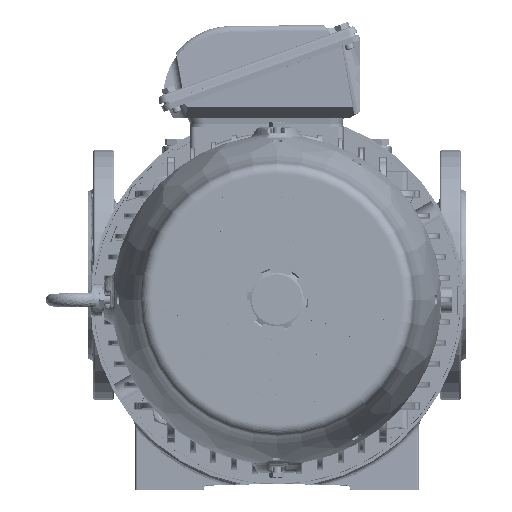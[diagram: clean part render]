
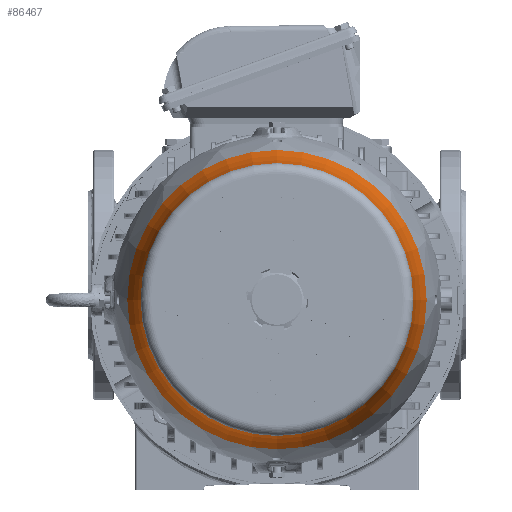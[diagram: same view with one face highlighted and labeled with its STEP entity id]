
A CAD part, top view. The second image highlights one B-rep face of the part: STEP entity #86467.
In plain terms, the highlighted toroidal (fillet/blend) face has major radius 308.616 mm and minor radius 180 mm.
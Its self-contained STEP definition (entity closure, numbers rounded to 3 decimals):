
#112=TOROIDAL_SURFACE('',#93584,308.617,180.);
#17658=FACE_OUTER_BOUND('',#22759,.T.);
#22759=EDGE_LOOP('',(#66572,#66573,#66574,#66575,#66576,#66577));
#27933=CIRCLE('',#93565,142.487);
#27934=CIRCLE('',#93566,142.487);
#27952=CIRCLE('',#93585,180.);
#27953=CIRCLE('',#93586,129.927);
#27954=CIRCLE('',#93587,129.927);
#37347=VERTEX_POINT('',#174566);
#37348=VERTEX_POINT('',#174570);
#37382=VERTEX_POINT('',#174860);
#37383=VERTEX_POINT('',#174862);
#47897=EDGE_CURVE('',#37347,#37348,#27933,.T.);
#47898=EDGE_CURVE('',#37348,#37347,#27934,.T.);
#47933=EDGE_CURVE('',#37347,#37382,#27952,.T.);
#47934=EDGE_CURVE('',#37382,#37383,#27953,.T.);
#47935=EDGE_CURVE('',#37383,#37382,#27954,.T.);
#66572=ORIENTED_EDGE('',*,*,#47898,.F.);
#66573=ORIENTED_EDGE('',*,*,#47897,.F.);
#66574=ORIENTED_EDGE('',*,*,#47933,.T.);
#66575=ORIENTED_EDGE('',*,*,#47934,.T.);
#66576=ORIENTED_EDGE('',*,*,#47935,.T.);
#66577=ORIENTED_EDGE('',*,*,#47933,.F.);
#86467=ADVANCED_FACE('',(#17658),#112,.F.);
#93565=AXIS2_PLACEMENT_3D('',#174571,#108889,#108890);
#93566=AXIS2_PLACEMENT_3D('',#174572,#108891,#108892);
#93584=AXIS2_PLACEMENT_3D('',#174859,#108927,#108928);
#93585=AXIS2_PLACEMENT_3D('',#174861,#108929,#108930);
#93586=AXIS2_PLACEMENT_3D('',#174863,#108931,#108932);
#93587=AXIS2_PLACEMENT_3D('',#174864,#108933,#108934);
#108889=DIRECTION('center_axis',(0.,0.,
-1.));
#108890=DIRECTION('ref_axis',(-1.,0.,0.));
#108891=DIRECTION('center_axis',(0.,0.,
-1.));
#108892=DIRECTION('ref_axis',(-1.,0.,0.));
#108927=DIRECTION('center_axis',(0.,0.,
-1.));
#108928=DIRECTION('ref_axis',(-1.,0.,0.));
#108929=DIRECTION('center_axis',(0.,1.,0.));
#108930=DIRECTION('ref_axis',(1.,0.,0.));
#108931=DIRECTION('center_axis',(0.,0.,
-1.));
#108932=DIRECTION('ref_axis',(-1.,0.,0.));
#108933=DIRECTION('center_axis',(0.,0.,
-1.));
#108934=DIRECTION('ref_axis',(-1.,0.,0.));
#174566=CARTESIAN_POINT('',(142.487,0.,597.799));
#174570=CARTESIAN_POINT('',(-142.487,0.,597.799));
#174571=CARTESIAN_POINT('Origin',(0.,0.,
597.799));
#174572=CARTESIAN_POINT('Origin',(0.,0.,
597.799));
#174859=CARTESIAN_POINT('Origin',(0.,0.,
667.087));
#174860=CARTESIAN_POINT('',(129.927,0.,645.405));
#174861=CARTESIAN_POINT('Origin',(308.617,0.,
667.087));
#174862=CARTESIAN_POINT('',(-129.927,0.,645.405));
#174863=CARTESIAN_POINT('Origin',(0.,0.,
645.405));
#174864=CARTESIAN_POINT('Origin',(0.,0.,
645.405));
